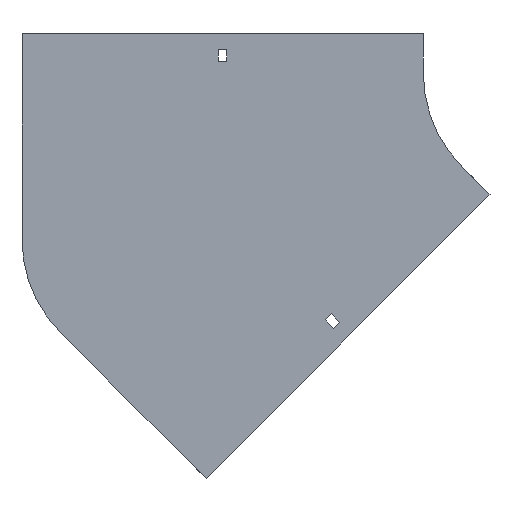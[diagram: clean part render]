
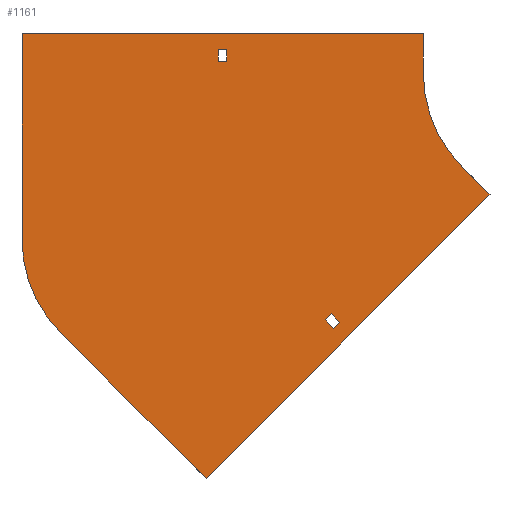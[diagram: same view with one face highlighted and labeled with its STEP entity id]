
A CAD part, front view. The second image highlights one B-rep face of the part: STEP entity #1161.
In plain terms, the highlighted planar face has unit normal (0, -1, 0).
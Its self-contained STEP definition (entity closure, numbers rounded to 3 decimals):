
#40 = PLANE ( 'NONE',  #1067 ) ;
#61 = VECTOR ( 'NONE', #933, 1000. ) ;
#76 = EDGE_CURVE ( 'NONE', #1852, #1604, #1105, .T. ) ;
#116 = DIRECTION ( 'NONE',  ( -0.707, 0., -0.707 ) ) ;
#130 = VERTEX_POINT ( 'NONE', #963 ) ;
#138 = ORIENTED_EDGE ( 'NONE', *, *, #479, .F. ) ;
#169 = DIRECTION ( 'NONE',  ( 0., 0., -1. ) ) ;
#181 = LINE ( 'NONE', #1553, #61 ) ;
#183 = VERTEX_POINT ( 'NONE', #986 ) ;
#190 = ORIENTED_EDGE ( 'NONE', *, *, #737, .T. ) ;
#197 = EDGE_CURVE ( 'NONE', #1604, #1492, #235, .T. ) ;
#198 = ORIENTED_EDGE ( 'NONE', *, *, #76, .F. ) ;
#215 = ORIENTED_EDGE ( 'NONE', *, *, #296, .F. ) ;
#220 = DIRECTION ( 'NONE',  ( -0.707, 0., 0.707 ) ) ;
#235 = LINE ( 'NONE', #839, #1636 ) ;
#236 = FACE_OUTER_BOUND ( 'NONE', #1159, .T. ) ;
#242 = DIRECTION ( 'NONE',  ( 0., 0., 1. ) ) ;
#246 = AXIS2_PLACEMENT_3D ( 'NONE', #1684, #1372, #169 ) ;
#253 = VERTEX_POINT ( 'NONE', #1757 ) ;
#255 = EDGE_CURVE ( 'NONE', #1277, #183, #1617, .T. ) ;
#271 = CARTESIAN_POINT ( 'NONE',  ( -404., 0., 30. ) ) ;
#278 = VERTEX_POINT ( 'NONE', #1305 ) ;
#296 = EDGE_CURVE ( 'NONE', #1278, #482, #1185, .T. ) ;
#338 = CIRCLE ( 'NONE', #246, 100. ) ;
#357 = ORIENTED_EDGE ( 'NONE', *, *, #1139, .F. ) ;
#362 = VERTEX_POINT ( 'NONE', #1213 ) ;
#378 = CARTESIAN_POINT ( 'NONE',  ( -264.458, 0., -306.884 ) ) ;
#381 = VECTOR ( 'NONE', #1740, 1000. ) ;
#398 = LINE ( 'NONE', #1637, #1322 ) ;
#406 = EDGE_CURVE ( 'NONE', #130, #596, #1530, .T. ) ;
#422 = EDGE_CURVE ( 'NONE', #278, #253, #338, .T. ) ;
#444 = ORIENTED_EDGE ( 'NONE', *, *, #584, .T. ) ;
#446 = VECTOR ( 'NONE', #1808, 1000. ) ;
#456 = DIRECTION ( 'NONE',  ( 0., 1., 0. ) ) ;
#479 = EDGE_CURVE ( 'NONE', #1124, #1022, #492, .T. ) ;
#482 = VERTEX_POINT ( 'NONE', #533 ) ;
#485 = CARTESIAN_POINT ( 'NONE',  ( -248.75, 0., 9. ) ) ;
#492 = LINE ( 'NONE', #950, #654 ) ;
#494 = CARTESIAN_POINT ( 'NONE',  ( -100., 0., 30. ) ) ;
#498 = EDGE_LOOP ( 'NONE', ( #138, #680, #1087, #1744 ) ) ;
#533 = CARTESIAN_POINT ( 'NONE',  ( -264.458, 0., -306.884 ) ) ;
#541 = DIRECTION ( 'NONE',  ( 0., 0., -1. ) ) ;
#549 = DIRECTION ( 'NONE',  ( 1., 0., 0. ) ) ;
#551 = EDGE_CURVE ( 'NONE', #1022, #1277, #1101, .T. ) ;
#577 = CARTESIAN_POINT ( 'NONE',  ( -49.497, 0., -91.924 ) ) ;
#584 = EDGE_CURVE ( 'NONE', #904, #130, #398, .T. ) ;
#596 = VERTEX_POINT ( 'NONE', #1745 ) ;
#624 = CARTESIAN_POINT ( 'NONE',  ( -255.25, 0., 9. ) ) ;
#642 = CARTESIAN_POINT ( 'NONE',  ( 0., 0., 0. ) ) ;
#654 = VECTOR ( 'NONE', #1550, 1000. ) ;
#673 = ORIENTED_EDGE ( 'NONE', *, *, #197, .F. ) ;
#680 = ORIENTED_EDGE ( 'NONE', *, *, #1472, .F. ) ;
#681 = DIRECTION ( 'NONE',  ( 0., 0., 1. ) ) ;
#735 = VERTEX_POINT ( 'NONE', #1231 ) ;
#737 = EDGE_CURVE ( 'NONE', #596, #735, #774, .T. ) ;
#743 = DIRECTION ( 'NONE',  ( -0.707, 0., -0.707 ) ) ;
#774 = LINE ( 'NONE', #485, #446 ) ;
#839 = CARTESIAN_POINT ( 'NONE',  ( -404., 0., 30. ) ) ;
#843 = CARTESIAN_POINT ( 'NONE',  ( -163.165, 0., -188.621 ) ) ;
#884 = CIRCLE ( 'NONE', #1895, 100. ) ;
#904 = VERTEX_POINT ( 'NONE', #1850 ) ;
#933 = DIRECTION ( 'NONE',  ( 0.707, 0., -0.707 ) ) ;
#950 = CARTESIAN_POINT ( 'NONE',  ( -167.761, 0., -193.217 ) ) ;
#963 = CARTESIAN_POINT ( 'NONE',  ( -255.25, 0., 18. ) ) ;
#964 = CARTESIAN_POINT ( 'NONE',  ( -167.761, 0., -193.217 ) ) ;
#968 = VECTOR ( 'NONE', #1353, 1000. ) ;
#986 = CARTESIAN_POINT ( 'NONE',  ( -174.125, 0., -186.853 ) ) ;
#997 = CARTESIAN_POINT ( 'NONE',  ( -174.125, 0., -186.853 ) ) ;
#1009 = VECTOR ( 'NONE', #1334, 1000. ) ;
#1022 = VERTEX_POINT ( 'NONE', #843 ) ;
#1054 = EDGE_CURVE ( 'NONE', #1492, #278, #1276, .T. ) ;
#1067 = AXIS2_PLACEMENT_3D ( 'NONE', #642, #1700, #1253 ) ;
#1087 = ORIENTED_EDGE ( 'NONE', *, *, #255, .F. ) ;
#1095 = VECTOR ( 'NONE', #743, 1000. ) ;
#1101 = LINE ( 'NONE', #1715, #1509 ) ;
#1105 = LINE ( 'NONE', #1115, #1254 ) ;
#1115 = CARTESIAN_POINT ( 'NONE',  ( -404., 0., -125.921 ) ) ;
#1118 = CARTESIAN_POINT ( 'NONE',  ( -404., 0., -125.921 ) ) ;
#1124 = VERTEX_POINT ( 'NONE', #964 ) ;
#1139 = EDGE_CURVE ( 'NONE', #482, #362, #1565, .T. ) ;
#1152 = ORIENTED_EDGE ( 'NONE', *, *, #422, .F. ) ;
#1159 = EDGE_LOOP ( 'NONE', ( #673, #198, #1918, #357, #215, #1299, #1152, #1456 ) ) ;
#1161 = ADVANCED_FACE ( 'NONE', ( #1710, #236, #1392 ), #40, .T. ) ;
#1185 = LINE ( 'NONE', #577, #1797 ) ;
#1210 = LINE ( 'NONE', #624, #1232 ) ;
#1213 = CARTESIAN_POINT ( 'NONE',  ( -374.711, 0., -196.632 ) ) ;
#1228 = DIRECTION ( 'NONE',  ( -1., 0., 0. ) ) ;
#1231 = CARTESIAN_POINT ( 'NONE',  ( -248.75, 0., 9. ) ) ;
#1232 = VECTOR ( 'NONE', #1228, 1000. ) ;
#1235 = EDGE_CURVE ( 'NONE', #253, #1278, #1306, .T. ) ;
#1253 = DIRECTION ( 'NONE',  ( 0., 0., -1. ) ) ;
#1254 = VECTOR ( 'NONE', #681, 1000. ) ;
#1272 = EDGE_LOOP ( 'NONE', ( #444, #1771, #190, #1316 ) ) ;
#1276 = LINE ( 'NONE', #1285, #1568 ) ;
#1277 = VERTEX_POINT ( 'NONE', #1298 ) ;
#1278 = VERTEX_POINT ( 'NONE', #1915 ) ;
#1285 = CARTESIAN_POINT ( 'NONE',  ( -100., 0., 30. ) ) ;
#1298 = CARTESIAN_POINT ( 'NONE',  ( -169.529, 0., -182.257 ) ) ;
#1299 = ORIENTED_EDGE ( 'NONE', *, *, #1235, .F. ) ;
#1305 = CARTESIAN_POINT ( 'NONE',  ( -100., 0., 0. ) ) ;
#1306 = LINE ( 'NONE', #1470, #1009 ) ;
#1316 = ORIENTED_EDGE ( 'NONE', *, *, #1741, .T. ) ;
#1322 = VECTOR ( 'NONE', #242, 1000. ) ;
#1334 = DIRECTION ( 'NONE',  ( 0.707, 0., -0.707 ) ) ;
#1353 = DIRECTION ( 'NONE',  ( 1., 0., 0. ) ) ;
#1372 = DIRECTION ( 'NONE',  ( 0., -1., 0. ) ) ;
#1392 = FACE_BOUND ( 'NONE', #498, .T. ) ;
#1456 = ORIENTED_EDGE ( 'NONE', *, *, #1054, .F. ) ;
#1470 = CARTESIAN_POINT ( 'NONE',  ( -70.711, 0., -70.711 ) ) ;
#1472 = EDGE_CURVE ( 'NONE', #183, #1124, #181, .T. ) ;
#1474 = CARTESIAN_POINT ( 'NONE',  ( -304., 0., -125.921 ) ) ;
#1492 = VERTEX_POINT ( 'NONE', #494 ) ;
#1509 = VECTOR ( 'NONE', #220, 1000. ) ;
#1523 = CARTESIAN_POINT ( 'NONE',  ( -255.25, 0., 18. ) ) ;
#1530 = LINE ( 'NONE', #1523, #968 ) ;
#1550 = DIRECTION ( 'NONE',  ( 0.707, 0., 0.707 ) ) ;
#1553 = CARTESIAN_POINT ( 'NONE',  ( -174.125, 0., -186.853 ) ) ;
#1565 = LINE ( 'NONE', #378, #381 ) ;
#1568 = VECTOR ( 'NONE', #541, 1000. ) ;
#1604 = VERTEX_POINT ( 'NONE', #271 ) ;
#1617 = LINE ( 'NONE', #997, #1095 ) ;
#1636 = VECTOR ( 'NONE', #549, 1000. ) ;
#1637 = CARTESIAN_POINT ( 'NONE',  ( -255.25, 0., 9. ) ) ;
#1684 = CARTESIAN_POINT ( 'NONE',  ( 0., 0., 0. ) ) ;
#1700 = DIRECTION ( 'NONE',  ( 0., -1., 0. ) ) ;
#1710 = FACE_BOUND ( 'NONE', #1272, .T. ) ;
#1715 = CARTESIAN_POINT ( 'NONE',  ( -169.529, 0., -182.257 ) ) ;
#1740 = DIRECTION ( 'NONE',  ( -0.707, 0., 0.707 ) ) ;
#1741 = EDGE_CURVE ( 'NONE', #735, #904, #1210, .T. ) ;
#1744 = ORIENTED_EDGE ( 'NONE', *, *, #551, .F. ) ;
#1745 = CARTESIAN_POINT ( 'NONE',  ( -248.75, 0., 18. ) ) ;
#1757 = CARTESIAN_POINT ( 'NONE',  ( -70.711, 0., -70.711 ) ) ;
#1771 = ORIENTED_EDGE ( 'NONE', *, *, #406, .T. ) ;
#1797 = VECTOR ( 'NONE', #116, 1000. ) ;
#1808 = DIRECTION ( 'NONE',  ( 0., 0., -1. ) ) ;
#1850 = CARTESIAN_POINT ( 'NONE',  ( -255.25, 0., 9. ) ) ;
#1852 = VERTEX_POINT ( 'NONE', #1118 ) ;
#1895 = AXIS2_PLACEMENT_3D ( 'NONE', #1474, #456, #1929 ) ;
#1900 = EDGE_CURVE ( 'NONE', #362, #1852, #884, .T. ) ;
#1915 = CARTESIAN_POINT ( 'NONE',  ( -49.497, 0., -91.924 ) ) ;
#1918 = ORIENTED_EDGE ( 'NONE', *, *, #1900, .F. ) ;
#1929 = DIRECTION ( 'NONE',  ( 0., 0., 1. ) ) ;
